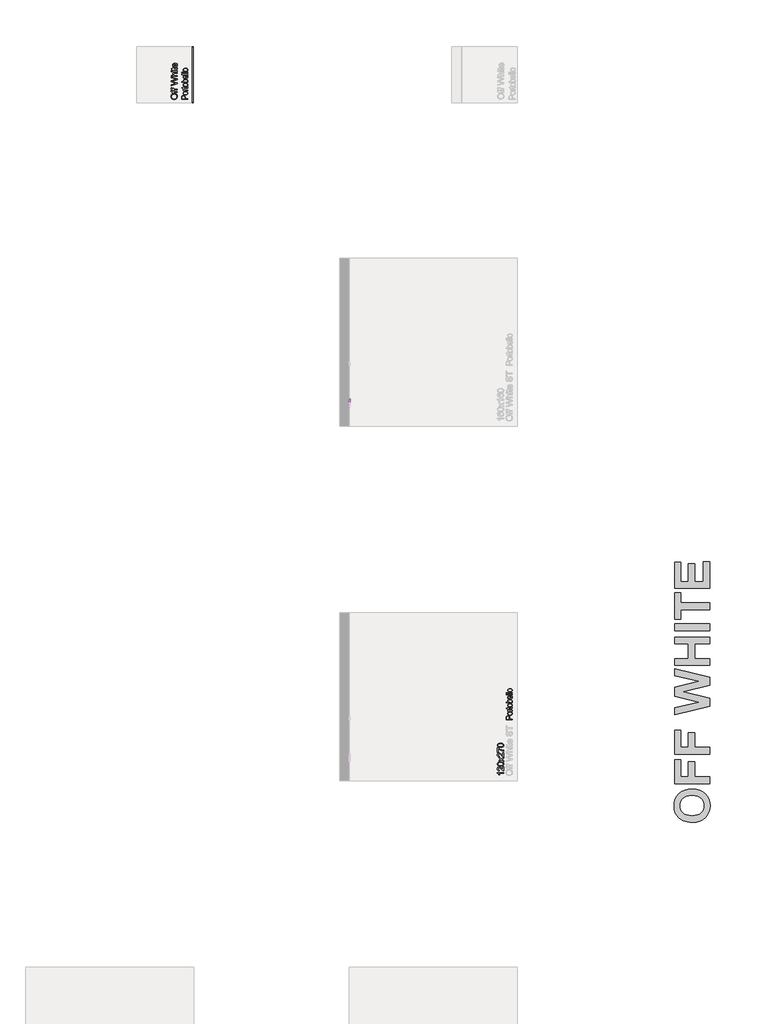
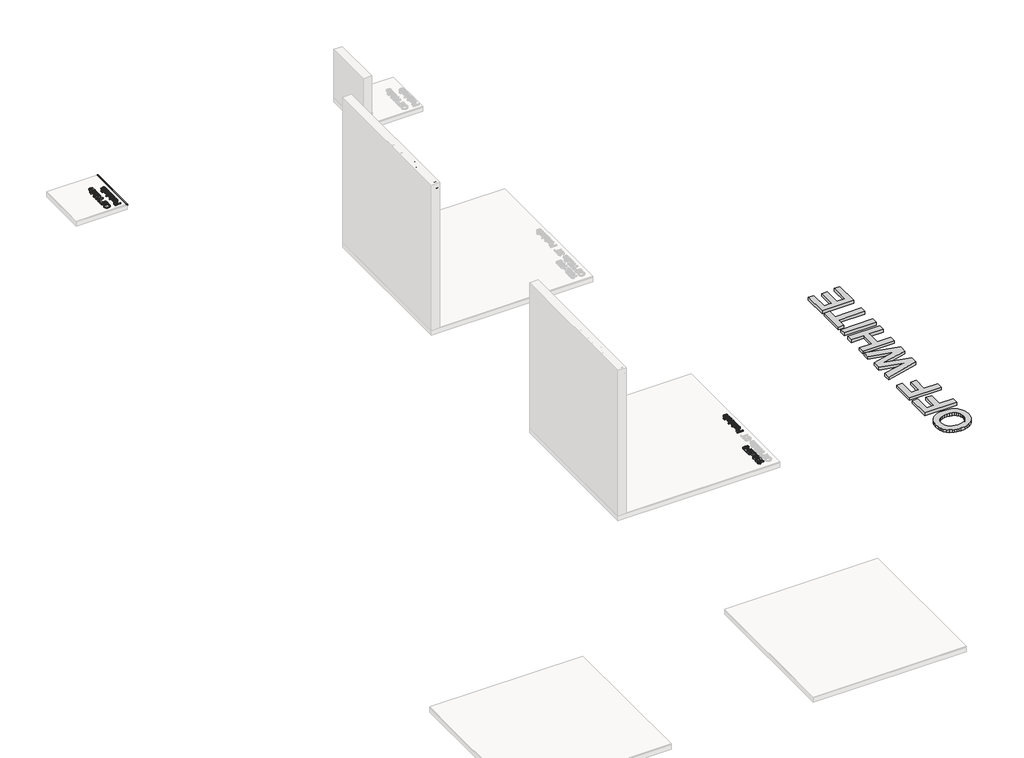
# One storey, part 14 of 19: 8 proxies.
"""IFC4 building model written with IfcOpenShell, lengths in millimetres."""

from ifc_helpers import new_model, si_unit, frame, origin, origin_with_axes, place, context, project, spatial, polyline, outline, extrude, transform, mapped, element, save
from components import off_white_04x90_tel_ext_ret_a41c1965, off_white_04x90_tel_ext_ret_b61131d4

model = new_model("IFC4")

# Units and contexts
model_context = context("Model", 3, world=origin())
ifc_project = project(units=[si_unit("LENGTHUNIT", "METRE", prefix="MILLI")], contexts=[model_context])

# Site, building, storey
site = spatial("IfcSite", under=ifc_project)
building = spatial("IfcBuilding", under=site)
storey = spatial("IfcBuildingStorey", under=building, Name="PORTOBELLO - SHOWROOM", Elevation=0.0)

# Proxies
placement = place(None, origin())
element("IfcBuildingElementProxy", 1, Name="10mm Arial", ObjectType="10mm Arial", at=placement, inside=storey, context=model_context, shape_type="SweptSolid", body=[
    extrude(outline(polyline([(10084.1273431, 2565.0933702), (10087.4750692, 2587.3073114), (10097.5182477, 2604.1133872), (10112.8527955, 2614.6899946), (10132.0746298, 2618.2155303), (10145.2509366, 2616.5600614), (10157.06608, 2611.5936544), (10166.8762665, 2603.6657974), (10174.0377027, 2593.1259783), (10178.4154984, 2580.4831004), (10179.8747637, 2566.2460672), (10178.3388564, 2551.8189616), (10173.7311344, 2538.998274), (10166.3060494, 2528.4400608), (10156.3180533, 2520.800378), (10144.6040774, 2516.1650649), (10132.0010534, 2514.6199605), (10118.6224115, 2516.3275461), (10106.739823, 2521.4503029), (10096.954162, 2529.5253127), (10089.8663022, 2540.0896573), (10084.1273431, 2565.0933702)]), holes=[polyline([(10096.6843818, 2564.9707429), (10099.1951765, 2549.2560503), (10106.7275603, 2537.2814914), (10118.0491287, 2529.7031223), (10131.927477, 2527.1769993), (10146.0081603, 2529.7276478), (10157.3481228, 2537.3795933), (10164.8253244, 2549.7220342), (10167.3177249, 2566.344169), (10163.0502938, 2587.0681881), (10150.5790941, 2600.7901865), (10132.1482062, 2605.6584916), (10118.6408056, 2603.3132439), (10107.156756, 2596.2775007), (10099.3024754, 2583.7603158), (10096.6843818, 2564.9707429)])]), frame((8905.7966975, 0.0, 0.0), z_axis=(1.0, 0.0, 0.0), x_axis=(0.0, 1.0, 0.0)), (0.0, 0.0, 1.0), 20.0),
    extrude(outline(polyline([(10239.5206978, 2516.1895903), (10239.5206978, 2577.4051543), (10228.5332889, 2577.4051543), (10228.5332889, 2589.9621931), (10239.5206978, 2589.9621931), (10239.5206978, 2597.3934094), (10240.845073, 2607.8657835), (10247.2707452, 2615.3460508), (10259.9258858, 2618.2155303), (10271.3792786, 2616.8421042), (10269.5398686, 2605.0698804), (10262.3048561, 2605.6584916), (10254.3953932, 2603.5738269), (10252.0777366, 2595.7992541), (10252.0777366, 2589.9621931), (10266.2044052, 2589.9621931), (10266.2044052, 2577.4051543), (10252.0777366, 2577.4051543), (10252.0777366, 2516.1895903), (10239.5206978, 2516.1895903)])), frame((8905.7966975, 0.0, 0.0), z_axis=(1.0, 0.0, 0.0), x_axis=(0.0, 1.0, 0.0)), (0.0, 0.0, 1.0), 20.0),
    extrude(outline(polyline([(10198.7103218, 2516.1895903), (10198.7103218, 2577.4051543), (10187.7229129, 2577.4051543), (10187.7229129, 2589.9621931), (10198.7103218, 2589.9621931), (10198.7103218, 2597.3934094), (10200.034697, 2607.8657835), (10206.4603692, 2615.3460508), (10219.1155098, 2618.2155303), (10230.5689026, 2616.8421042), (10228.7294926, 2605.0698804), (10221.4944801, 2605.6584916), (10213.5850172, 2603.5738269), (10211.2673606, 2595.7992541), (10211.2673606, 2589.9621931), (10225.3940292, 2589.9621931), (10225.3940292, 2577.4051543), (10211.2673606, 2577.4051543), (10211.2673606, 2516.1895903), (10198.7103218, 2516.1895903)])), frame((8905.7966975, 0.0, 0.0), z_axis=(1.0, 0.0, 0.0), x_axis=(0.0, 1.0, 0.0)), (0.0, 0.0, 1.0), 20.0),
    extrude(outline(polyline([(10335.979357, 2516.1895903), (10308.5844111, 2616.6459005), (10321.5338573, 2616.6459005), (10337.4263595, 2550.6233451), (10342.3314528, 2530.2426826), (10347.5799026, 2548.2689003), (10367.4945812, 2616.6459005), (10386.1584611, 2616.6459005), (10400.6284863, 2567.079933), (10411.395166, 2530.2426826), (10416.1531065, 2550.0347339), (10432.168236, 2616.6459005), (10445.1422077, 2616.6459005), (10417.7717872, 2516.1895903), (10404.3318317, 2516.1895903), (10380.2232983, 2593.690064), (10376.8633094, 2604.5057947), (10373.0863876, 2591.482772), (10351.1360952, 2516.1895903), (10335.979357, 2516.1895903)])), frame((8905.7966975, 0.0, 0.0), z_axis=(1.0, 0.0, 0.0), x_axis=(0.0, 1.0, 0.0)), (0.0, 0.0, 1.0), 20.0),
    extrude(outline(polyline([(10456.1296166, 2516.1895903), (10456.1296166, 2616.6459005), (10468.6866554, 2616.6459005), (10468.6866554, 2579.7105482), (10478.4784478, 2588.5765043), (10490.5388459, 2591.531823), (10504.640989, 2588.3067241), (10513.2003768, 2579.3917171), (10515.7755507, 2562.8860783), (10515.7755507, 2516.1895903), (10503.218512, 2516.1895903), (10503.218512, 2561.5862285), (10499.220861, 2574.8299804), (10487.8900955, 2578.9747842), (10477.6016624, 2576.178881), (10470.7345318, 2568.6005119), (10468.6866554, 2555.3812856), (10468.6866554, 2516.1895903), (10456.1296166, 2516.1895903)])), frame((8905.7966975, 0.0, 0.0), z_axis=(1.0, 0.0, 0.0), x_axis=(0.0, 1.0, 0.0)), (0.0, 0.0, 1.0), 20.0),
    extrude(outline(polyline([(8925.7966975, 10545.5985178), (8925.7966975, 10533.0414791), (8905.7966975, 10533.0414791), (8905.7966975, 10545.5985178), (8925.7966975, 10545.5985178)])), frame((0.0, 0.0, 2604.0888617), z_axis=(0.0, 0.0, 1.0), x_axis=(1.0, 0.0, 0.0)), (0.0, 0.0, 1.0), 12.5570388),
    extrude(outline(polyline([(8925.7966975, 10545.5985178), (8925.7966975, 10533.0414791), (8905.7966975, 10533.0414791), (8905.7966975, 10545.5985178), (8925.7966975, 10545.5985178)])), frame((0.0, 0.0, 2516.1895903), z_axis=(0.0, 0.0, 1.0), x_axis=(1.0, 0.0, 0.0)), (0.0, 0.0, 1.0), 73.7726028),
    extrude(outline(polyline([(10591.1177834, 2526.6619645), (10592.6874132, 2515.8217083), (10583.2941596, 2514.6199605), (10572.7727345, 2516.7046251), (10567.5242847, 2522.1738041), (10566.0037058, 2536.4231001), (10566.0037058, 2577.4051543), (10556.5859267, 2577.4051543), (10556.5859267, 2589.9621931), (10566.0037058, 2589.9621931), (10566.0037058, 2607.890309), (10578.5607446, 2615.2724744), (10578.5607446, 2589.9621931), (10591.1177834, 2589.9621931), (10591.1177834, 2577.4051543), (10578.5607446, 2577.4051543), (10578.5607446, 2536.7909821), (10579.2229322, 2530.316259), (10581.3689105, 2528.0231279), (10585.6486044, 2527.1769993), (10591.1177834, 2526.6619645)])), frame((8905.7966975, 0.0, 0.0), z_axis=(1.0, 0.0, 0.0), x_axis=(0.0, 1.0, 0.0)), (0.0, 0.0, 1.0), 20.0),
    extrude(outline(polyline([(10655.3254543, 2538.1644082), (10667.6372384, 2536.5947783), (10663.2011946, 2527.3180207), (10656.1225319, 2520.3834451), (10646.5606657, 2516.0608316), (10634.6750116, 2514.6199605), (10619.9413377, 2517.1062296), (10608.6044409, 2524.5650371), (10601.3755597, 2536.5120049), (10598.9659326, 2552.4627551), (10601.4000851, 2568.9499998), (10608.7025427, 2581.280178), (10619.8861554, 2588.9689117), (10633.9637731, 2591.531823), (10647.602998, 2588.9750431), (10658.5015021, 2581.3047035), (10665.6476099, 2568.9990508), (10668.0296458, 2552.5363315), (10667.9560694, 2549.1518171), (10611.5229714, 2549.1518171), (10613.6965408, 2539.7524321), (10618.7457212, 2532.842382), (10626.0328504, 2528.5933449), (10634.9202663, 2527.1769993), (10647.2320504, 2529.8012242), (10655.3254543, 2538.1644082)]), holes=[polyline([(10611.5229714, 2561.7088559), (10655.472607, 2561.7088559), (10650.4448864, 2573.0886723), (10643.1240347, 2577.5032562), (10633.9147221, 2578.9747842), (10618.4514156, 2574.2781574), (10613.5861762, 2568.7875186), (10611.5229714, 2561.7088559)])]), frame((8905.7966975, 0.0, 0.0), z_axis=(1.0, 0.0, 0.0), x_axis=(0.0, 1.0, 0.0)), (0.0, 0.0, 1.0), 20.0),
    extrude(outline(polyline([(10716.688171, 2550.721447), (10729.2452098, 2550.721447), (10733.2919118, 2538.1521455), (10743.1756747, 2530.2058944), (10758.234311, 2527.1769993), (10771.3554355, 2529.4701304), (10779.8289842, 2535.7731752), (10782.6126246, 2544.1976729), (10780.5279599, 2552.0335594), (10771.9930977, 2557.7357303), (10753.7093625, 2562.530459), (10734.0276758, 2568.7231393), (10723.3468352, 2578.0673419), (10719.8274307, 2590.5508043), (10724.180701, 2604.763312), (10736.8971553, 2614.7942278), (10755.5119843, 2618.2155303), (10775.377612, 2614.6348123), (10788.6213638, 2604.1133872), (10793.6000335, 2588.3925633), (10781.0429947, 2588.3925633), (10778.7376009, 2595.8850932), (10773.9306095, 2601.2929586), (10756.0024936, 2605.6584916), (10738.0253268, 2601.3420095), (10732.3844695, 2590.9186863), (10736.3821205, 2582.2121457), (10756.8854104, 2575.1978624), (10779.1054829, 2568.8948175), (10791.2578515, 2558.716749), (10795.1696634, 2544.516504), (10790.6692403, 2529.4946558), (10777.719794, 2518.5317724), (10758.7248204, 2514.6199605), (10736.2962814, 2518.8383407), (10722.1082991, 2531.5425323), (10716.688171, 2550.721447)])), frame((8905.7966975, 0.0, 0.0), z_axis=(1.0, 0.0, 0.0), x_axis=(0.0, 1.0, 0.0)), (0.0, 0.0, 1.0), 20.0),
    extrude(outline(polyline([(10839.119299, 2516.1895903), (10839.119299, 2604.0888617), (10806.1570723, 2604.0888617), (10806.1570723, 2616.6459005), (10884.6385646, 2616.6459005), (10884.6385646, 2604.0888617), (10851.6763378, 2604.0888617), (10851.6763378, 2516.1895903), (10839.119299, 2516.1895903)])), frame((8905.7966975, 0.0, 0.0), z_axis=(1.0, 0.0, 0.0), x_axis=(0.0, 1.0, 0.0)), (0.0, 0.0, 1.0), 20.0),
])
element("IfcBuildingElementProxy", 2, Name="10mm Arial", ObjectType="10mm Arial", at=placement, inside=storey, context=model_context, shape_type="SweptSolid", body=[
    extrude(outline(polyline([(11390.2249813, 4434.5732405), (11390.2249813, 4422.0162018), (11311.9396927, 4422.0162018), (11320.4132414, 4410.1213506), (11326.7530744, 4396.9021242), (11314.8827487, 4396.9021242), (11303.1350503, 4415.3084867), (11289.7686712, 4426.4798366), (11289.7686712, 4434.5732405), (11390.2249813, 4434.5732405)])), origin_with_axes(), (0.0, 0.0, 1.0), 20.0),
    extrude(outline(polyline([(11377.6679425, 4528.7510313), (11390.2249813, 4528.7510313), (11390.2249813, 4462.8265778), (11381.5674917, 4464.1754784), (11368.2379007, 4471.8151612), (11353.6820365, 4487.5482478), (11332.7618137, 4509.2164974), (11318.5370432, 4514.6243627), (11307.0223367, 4509.510803), (11302.3257099, 4496.1566865), (11306.9119721, 4482.2384844), (11319.5916382, 4476.9532464), (11318.0220084, 4464.3962076), (11305.8757712, 4467.4404311), (11297.0036837, 4474.0224532), (11291.5774243, 4483.7989172), (11289.7686712, 4496.4264667), (11291.7797594, 4509.1459866), (11297.8130241, 4518.9040566), (11306.826133, 4525.1120652), (11317.7767537, 4527.1814015), (11329.6838676, 4524.949584), (11341.9956517, 4517.5306305), (11359.2002664, 4499.5412009), (11371.2790586, 4485.0957012), (11377.6679425, 4479.4303185), (11377.6679425, 4528.7510313)])), origin_with_axes(), (0.0, 0.0, 1.0), 20.0),
    extrude(outline(polyline([(11340.8061666, 4541.3080701), (11311.9029045, 4544.9991528), (11295.2378502, 4555.9620362), (11289.7686712, 4574.2702968), (11293.0060327, 4588.9365257), (11302.3379727, 4599.0655433), (11317.2004053, 4604.9516552), (11340.8061666, 4607.2325236), (11369.5868014, 4603.5782291), (11386.288644, 4592.6521339), (11390.4181194, 4584.4207742), (11391.7946112, 4574.2702968), (11389.4033782, 4561.2227487), (11382.2296793, 4551.3144603), (11365.2396625, 4543.8096676), (11340.8061666, 4541.3080701)]), holes=[polyline([(11340.7816412, 4553.8651088), (11360.5338386, 4555.3366368), (11371.9657716, 4559.7512208), (11377.4196222, 4566.3240457), (11379.2375724, 4574.2702968), (11377.4134908, 4582.2165479), (11371.9412462, 4588.7893729), (11360.5031818, 4593.2039569), (11340.7816412, 4594.6754848), (11321.4739678, 4593.2530078), (11309.95313, 4588.9855766), (11304.2325649, 4582.4250144), (11302.3257099, 4574.123144), (11304.0057044, 4566.2627321), (11309.0456877, 4559.9474245), (11321.2838954, 4555.3856878), (11340.7816412, 4553.8651088)])]), origin_with_axes(), (0.0, 0.0, 1.0), 20.0),
    extrude(outline(polyline([(11390.2249813, 4613.511043), (11353.1179507, 4640.3419032), (11316.4523785, 4615.0806728), (11316.4523785, 4630.1393092), (11334.1352398, 4642.328466), (11342.4493729, 4648.0428996), (11335.6312932, 4652.9970438), (11316.4523785, 4666.8784578), (11316.4523785, 4681.986145), (11353.1424762, 4655.4495904), (11390.2249813, 4681.0051264), (11390.2249813, 4665.9219646), (11367.9068069, 4650.5199717), (11363.8110541, 4647.7240685), (11390.2249813, 4628.6187303), (11390.2249813, 4613.511043)])), origin_with_axes(), (0.0, 0.0, 1.0), 20.0),
    extrude(outline(polyline([(11377.6679425, 4753.2080993), (11390.2249813, 4753.2080993), (11390.2249813, 4687.2836458), (11381.5674917, 4688.6325464), (11368.2379007, 4696.2722292), (11353.6820365, 4712.0053158), (11332.7618137, 4733.6735654), (11318.5370432, 4739.0814307), (11307.0223367, 4733.9678709), (11302.3257099, 4720.6137545), (11306.9119721, 4706.6955524), (11319.5916382, 4701.4103144), (11318.0220084, 4688.8532756), (11305.8757712, 4691.8974991), (11297.0036837, 4698.4795211), (11291.5774243, 4708.2559852), (11289.7686712, 4720.8835347), (11291.7797594, 4733.6030546), (11297.8130241, 4743.3611246), (11306.826133, 4749.5691332), (11317.7767537, 4751.6384695), (11329.6838676, 4749.406652), (11341.9956517, 4741.9876984), (11359.2002664, 4723.9982689), (11371.2790586, 4709.5527692), (11377.6679425, 4703.8873865), (11377.6679425, 4753.2080993)])), origin_with_axes(), (0.0, 0.0, 1.0), 20.0),
    extrude(outline(polyline([(11303.8953398, 4765.7651381), (11291.338301, 4765.7651381), (11291.338301, 4831.6895916), (11301.4918441, 4831.6895916), (11328.5066453, 4812.9889235), (11362.9281373, 4798.6783139), (11390.2249813, 4794.0184753), (11390.2249813, 4781.4614365), (11361.8980677, 4786.4523689), (11329.8800714, 4800.1498419), (11303.8953398, 4819.1325528), (11303.8953398, 4765.7651381)])), origin_with_axes(), (0.0, 0.0, 1.0), 20.0),
    extrude(outline(polyline([(11340.8061666, 4842.6770005), (11311.9029045, 4846.3680832), (11295.2378502, 4857.3309667), (11289.7686712, 4875.6392273), (11293.0060327, 4890.3054562), (11302.3379727, 4900.4344738), (11317.2004053, 4906.3205857), (11340.8061666, 4908.6014541), (11369.5868014, 4904.9471596), (11386.288644, 4894.0210643), (11390.4181194, 4885.7897047), (11391.7946112, 4875.6392273), (11389.4033782, 4862.5916792), (11382.2296793, 4852.6833908), (11365.2396625, 4845.1785981), (11340.8061666, 4842.6770005)]), holes=[polyline([(11340.7816412, 4855.2340393), (11360.5338386, 4856.7055673), (11371.9657716, 4861.1201512), (11377.4196222, 4867.6929762), (11379.2375724, 4875.6392273), (11377.4134908, 4883.5854784), (11371.9412462, 4890.1583034), (11360.5031818, 4894.5728873), (11340.7816412, 4896.0444153), (11321.4739678, 4894.6219382), (11309.95313, 4890.3545071), (11304.2325649, 4883.7939449), (11302.3257099, 4875.4920745), (11304.0057044, 4867.6316625), (11309.0456877, 4861.3163549), (11321.2838954, 4856.7546182), (11340.7816412, 4855.2340393)])]), origin_with_axes(), (0.0, 0.0, 1.0), 20.0),
])
element("IfcBuildingElementProxy", 3, Name="10mm Arial", ObjectType="10mm Arial", at=placement, inside=storey, context=model_context, shape_type="SweptSolid", body=[
    extrude(outline(polyline([(6096.4161842, 15254.0635668), (6074.2022431, 15257.411293), (6057.3961673, 15267.4544715), (6046.8195599, 15282.7890193), (6043.2940241, 15302.0108535), (6044.9494931, 15315.1871603), (6049.9159, 15327.0023037), (6057.843757, 15336.8124903), (6068.3835762, 15343.9739265), (6081.0264541, 15348.3517222), (6095.2634873, 15349.8109874), (6109.6905929, 15348.2750801), (6122.5112804, 15343.6673581), (6133.0694937, 15336.2422732), (6140.7091765, 15326.254277), (6145.3444896, 15314.5403012), (6146.889594, 15301.9372771), (6145.1820084, 15288.5586353), (6140.0592516, 15276.6760468), (6131.9842418, 15266.8903857), (6121.4198972, 15259.802526), (6096.4161842, 15254.0635668)]), holes=[polyline([(6096.5388116, 15266.6206056), (6112.2535041, 15269.1314002), (6124.2280631, 15276.6637841), (6131.8064322, 15287.9853525), (6134.3325552, 15301.8637007), (6131.7819067, 15315.9443841), (6124.1299612, 15327.2843466), (6111.7875203, 15334.7615482), (6095.1653854, 15337.2539487), (6074.4413664, 15332.9865175), (6060.719368, 15320.5153179), (6055.8510629, 15302.0844299), (6058.1963106, 15288.5770294), (6065.2320538, 15277.0929797), (6077.7492387, 15269.2386991), (6096.5388116, 15266.6206056)])]), frame((0.0, 0.0, 17.0), z_axis=(0.0, 0.0, 1.0), x_axis=(1.0, 0.0, 0.0)), (0.0, 0.0, 1.0), 20.0),
    extrude(outline(polyline([(6145.3199641, 15409.4569216), (6084.1044001, 15409.4569216), (6084.1044001, 15398.4695127), (6071.5473614, 15398.4695127), (6071.5473614, 15409.4569216), (6064.1161451, 15409.4569216), (6053.6437709, 15410.7812968), (6046.1635037, 15417.206969), (6043.2940241, 15429.8621096), (6044.6674502, 15441.3155024), (6056.4396741, 15439.4760924), (6055.8510629, 15432.2410798), (6057.9357275, 15424.3316169), (6065.7103004, 15422.0139604), (6071.5473614, 15422.0139604), (6071.5473614, 15436.140629), (6084.1044001, 15436.140629), (6084.1044001, 15422.0139604), (6145.3199641, 15422.0139604), (6145.3199641, 15409.4569216)])), frame((0.0, 0.0, 17.0), z_axis=(0.0, 0.0, 1.0), x_axis=(1.0, 0.0, 0.0)), (0.0, 0.0, 1.0), 20.0),
    extrude(outline(polyline([(6145.3199641, 15368.6465456), (6084.1044001, 15368.6465456), (6084.1044001, 15357.6591367), (6071.5473614, 15357.6591367), (6071.5473614, 15368.6465456), (6064.1161451, 15368.6465456), (6053.6437709, 15369.9709208), (6046.1635037, 15376.396593), (6043.2940241, 15389.0517336), (6044.6674502, 15400.5051264), (6056.4396741, 15398.6657164), (6055.8510629, 15391.4307038), (6057.9357275, 15383.5212409), (6065.7103004, 15381.2035844), (6071.5473614, 15381.2035844), (6071.5473614, 15395.330253), (6084.1044001, 15395.330253), (6084.1044001, 15381.2035844), (6145.3199641, 15381.2035844), (6145.3199641, 15368.6465456)])), frame((0.0, 0.0, 17.0), z_axis=(0.0, 0.0, 1.0), x_axis=(1.0, 0.0, 0.0)), (0.0, 0.0, 1.0), 20.0),
    extrude(outline(polyline([(6145.3199641, 15505.9155807), (6044.863654, 15478.5206348), (6044.863654, 15491.4700811), (6110.8862094, 15507.3625832), (6131.2668719, 15512.2676765), (6113.2406541, 15517.5161263), (6044.863654, 15537.430805), (6044.863654, 15556.0946849), (6094.4296215, 15570.56471), (6131.2668719, 15581.3313897), (6111.4748206, 15586.0893302), (6044.863654, 15602.1044597), (6044.863654, 15615.0784314), (6145.3199641, 15587.708011), (6145.3199641, 15574.2680554), (6067.8194905, 15550.159522), (6057.0037598, 15546.7995331), (6070.0267824, 15543.0226113), (6145.3199641, 15521.0723189), (6145.3199641, 15505.9155807)])), frame((0.0, 0.0, 17.0), z_axis=(0.0, 0.0, 1.0), x_axis=(1.0, 0.0, 0.0)), (0.0, 0.0, 1.0), 20.0),
    extrude(outline(polyline([(6145.3199641, 15626.0658404), (6044.863654, 15626.0658404), (6044.863654, 15638.6228791), (6081.7990063, 15638.6228791), (6072.9330502, 15648.4146716), (6069.9777315, 15660.4750696), (6073.2028303, 15674.5772128), (6082.1178374, 15683.1366005), (6098.6234762, 15685.7117745), (6145.3199641, 15685.7117745), (6145.3199641, 15673.1547357), (6099.9233259, 15673.1547357), (6086.6795741, 15669.1570847), (6082.5347703, 15657.8263193), (6085.3306734, 15647.5378861), (6092.9090425, 15640.6707556), (6106.1282689, 15638.6228791), (6145.3199641, 15638.6228791), (6145.3199641, 15626.0658404)])), frame((0.0, 0.0, 17.0), z_axis=(0.0, 0.0, 1.0), x_axis=(1.0, 0.0, 0.0)), (0.0, 0.0, 1.0), 20.0),
    extrude(outline(polyline([(6057.4206927, 15702.9777028), (6044.863654, 15702.9777028), (6044.863654, 15715.5347416), (6057.4206927, 15715.5347416), (6057.4206927, 15702.9777028)])), frame((0.0, 0.0, 17.0), z_axis=(0.0, 0.0, 1.0), x_axis=(1.0, 0.0, 0.0)), (0.0, 0.0, 1.0), 20.0),
    extrude(outline(polyline([(6145.3199641, 15702.9777028), (6071.5473614, 15702.9777028), (6071.5473614, 15715.5347416), (6145.3199641, 15715.5347416), (6145.3199641, 15702.9777028)])), frame((0.0, 0.0, 17.0), z_axis=(0.0, 0.0, 1.0), x_axis=(1.0, 0.0, 0.0)), (0.0, 0.0, 1.0), 20.0),
    extrude(outline(polyline([(6134.84759, 15761.0540071), (6145.6878461, 15762.623637), (6146.889594, 15753.2303834), (6144.8049293, 15742.7089583), (6139.3357503, 15737.4605085), (6125.0864544, 15735.9399296), (6084.1044001, 15735.9399296), (6084.1044001, 15726.5221505), (6071.5473614, 15726.5221505), (6071.5473614, 15735.9399296), (6053.6192455, 15735.9399296), (6046.2370801, 15748.4969684), (6071.5473614, 15748.4969684), (6071.5473614, 15761.0540071), (6084.1044001, 15761.0540071), (6084.1044001, 15748.4969684), (6124.7185724, 15748.4969684), (6131.1932955, 15749.1591559), (6133.4864266, 15751.3051343), (6134.3325552, 15755.5848281), (6134.84759, 15761.0540071)])), frame((0.0, 0.0, 17.0), z_axis=(0.0, 0.0, 1.0), x_axis=(1.0, 0.0, 0.0)), (0.0, 0.0, 1.0), 20.0),
    extrude(outline(polyline([(6123.3451463, 15825.261678), (6124.9147761, 15837.5734621), (6134.1915338, 15833.1374184), (6141.1261094, 15826.0587557), (6145.4487228, 15816.4968895), (6146.889594, 15804.6112354), (6144.4033248, 15789.8775614), (6136.9445174, 15778.5406646), (6124.9975496, 15771.3117834), (6109.0467994, 15768.9021564), (6092.5595547, 15771.3363089), (6080.2293764, 15778.6387665), (6072.5406427, 15789.8223791), (6069.9777315, 15803.8999968), (6072.5345114, 15817.5392218), (6080.204851, 15828.4377259), (6092.5105037, 15835.5838337), (6108.973223, 15837.9658696), (6112.3577374, 15837.8922932), (6112.3577374, 15781.4591951), (6121.7571223, 15783.6327646), (6128.6671725, 15788.681945), (6132.9162095, 15795.9690741), (6134.3325552, 15804.85649), (6131.7083303, 15817.1682741), (6123.3451463, 15825.261678)]), holes=[polyline([(6099.8006986, 15781.4591951), (6099.8006986, 15825.4088308), (6088.4208822, 15820.3811102), (6084.0062983, 15813.0602585), (6082.5347703, 15803.8509459), (6087.2313971, 15788.3876394), (6092.7220359, 15783.5224), (6099.8006986, 15781.4591951)])]), frame((0.0, 0.0, 17.0), z_axis=(0.0, 0.0, 1.0), x_axis=(1.0, 0.0, 0.0)), (0.0, 0.0, 1.0), 20.0),
])
element("IfcBuildingElementProxy", 4, Name="10mm Arial Narrow", ObjectType="10mm Arial Narrow", at=placement, inside=storey, context=model_context, shape_type="SweptSolid", body=[
    extrude(outline(polyline([(11530.2249813, 5284.5071343), (11429.5063776, 5284.5071343), (11429.5063776, 5315.804019), (11431.3846983, 5332.0997205), (11440.8651415, 5343.5727066), (11457.8842503, 5347.8623851), (11469.9600758, 5346.0760767), (11479.5864696, 5340.7171515), (11485.887728, 5330.9733626), (11487.9881475, 5316.0324634), (11487.9881475, 5294.254096), (11530.2249813, 5294.254096), (11530.2249813, 5284.5071343)]), holes=[polyline([(11476.6166922, 5294.254096), (11476.6166922, 5317.2254509), (11472.085878, 5333.0896463), (11458.4172873, 5338.1154234), (11448.2515108, 5335.6406089), (11442.451561, 5329.6629801), (11440.8778328, 5316.9970065), (11440.8778328, 5294.254096), (11476.6166922, 5294.254096)])]), origin_with_axes(), (0.0, 0.0, 1.0), 20.0),
    extrude(outline(polyline([(11493.6738751, 5355.9848531), (11477.0830996, 5357.939322), (11465.1310147, 5363.8027286), (11457.9064602, 5372.6612953), (11455.4982753, 5383.6012445), (11457.9064602, 5394.4142801), (11465.1310147, 5403.2982295), (11476.8927292, 5409.2377842), (11492.9123937, 5411.2176358), (11510.0742803, 5409.2726855), (11522.2167355, 5403.4378344), (11529.4412901, 5394.5887862), (11531.8494749, 5383.6012445), (11529.4349444, 5372.7406163), (11522.1913528, 5363.8661854), (11510.2329223, 5357.9551862), (11493.6738751, 5355.9848531)]), holes=[polyline([(11493.6484924, 5365.7318148), (11506.2002438, 5367.0358516), (11515.0715019, 5370.9479622), (11520.3447604, 5376.789159), (11522.1025133, 5383.8804543), (11520.3288962, 5390.6005275), (11515.0080451, 5396.2926008), (11506.1209228, 5400.1761558), (11493.6484924, 5401.4706742), (11481.1348151, 5400.1666373), (11472.2762484, 5396.2545267), (11467.0029898, 5390.41333), (11465.245237, 5383.3220346), (11467.0125083, 5376.5543689), (11472.3143224, 5370.8718141), (11481.1824077, 5367.0168146), (11493.6484924, 5365.7318148)])]), origin_with_axes(), (0.0, 0.0, 1.0), 20.0),
    extrude(outline(polyline([(11522.1025133, 5482.6953546), (11531.8494749, 5484.3198482), (11531.8494749, 5476.9588616), (11529.7300184, 5468.6840972), (11523.9300686, 5464.3690361), (11509.2842434, 5463.2014313), (11466.8697306, 5463.2014313), (11466.8697306, 5455.0789633), (11463.6207433, 5455.0789633), (11468.4942242, 5453.4544697), (11466.8697306, 5445.8904213), (11469.1922488, 5439.8112616), (11475.6775319, 5435.9403979), (11491.0848384, 5433.9605463), (11530.2249813, 5433.9605463), (11530.2249813, 5424.2135847), (11457.1227689, 5424.2135847), (11457.1227689, 5433.9605463), (11466.8189651, 5433.9605463), (11457.731954, 5440.2046937), (11455.4982753, 5446.6011372), (11457.1227689, 5455.0789633), (11457.1227689, 5463.2014313), (11440.8778328, 5463.2014313), (11432.7553648, 5472.948393), (11457.1227689, 5472.948393), (11457.1227689, 5482.6953546), (11466.8697306, 5482.6953546), (11466.8697306, 5472.948393), (11511.5179221, 5472.948393), (11519.5134766, 5473.8114052), (11522.1025133, 5478.4310589), (11522.1025133, 5482.6953546)])), origin_with_axes(), (0.0, 0.0, 1.0), 20.0),
    extrude(outline(polyline([(11493.6738751, 5489.193329), (11477.0830996, 5491.1477979), (11465.1310147, 5497.0112045), (11457.9064602, 5505.8697713), (11455.4982753, 5516.8097204), (11457.9064602, 5527.622756), (11465.1310147, 5536.5067054), (11476.8927292, 5542.4462602), (11492.9123937, 5544.4261118), (11510.0742803, 5542.4811614), (11522.2167355, 5536.6463103), (11529.4412901, 5527.7972621), (11531.8494749, 5516.8097204), (11529.4349444, 5505.9490922), (11522.1913528, 5497.0746613), (11510.2329223, 5491.1636621), (11493.6738751, 5489.193329)]), holes=[polyline([(11493.6484924, 5498.9402907), (11506.2002438, 5500.2443276), (11515.0715019, 5504.1564381), (11520.3447604, 5509.9976349), (11522.1025133, 5517.0889302), (11520.3288962, 5523.8090034), (11515.0080451, 5529.5010767), (11506.1209228, 5533.3846318), (11493.6484924, 5534.6791501), (11481.1348151, 5533.3751132), (11472.2762484, 5529.4630027), (11467.0029898, 5523.6218059), (11465.245237, 5516.5305106), (11467.0125083, 5509.7628448), (11472.3143224, 5504.08029), (11481.1824077, 5500.2252905), (11493.6484924, 5498.9402907)])]), origin_with_axes(), (0.0, 0.0, 1.0), 20.0),
    extrude(outline(polyline([(11530.2249813, 5567.1690223), (11530.2249813, 5557.4220606), (11429.5063776, 5557.4220606), (11429.5063776, 5567.1690223), (11464.9152617, 5567.1690223), (11457.8334849, 5574.568083), (11455.4982753, 5583.7693163), (11459.6991142, 5596.651043), (11472.4285446, 5605.9284245), (11493.1154554, 5609.4058561), (11509.5697989, 5607.4735971), (11521.772538, 5601.6768201), (11529.3302407, 5593.3036978), (11531.8494749, 5583.6424028), (11529.2350555, 5574.3015645), (11521.4679455, 5567.1690223), (11530.2249813, 5567.1690223)]), holes=[polyline([(11493.1154554, 5567.1690223), (11510.3630087, 5569.2504047), (11519.0946618, 5575.139194), (11522.1025133, 5583.5916374), (11520.313032, 5589.534365), (11514.9445883, 5594.7727223), (11493.5215788, 5599.6588945), (11472.085878, 5594.9504013), (11466.9553972, 5589.7056983), (11465.245237, 5583.3885757), (11467.0347182, 5577.4109468), (11472.4031619, 5572.1186512), (11493.1154554, 5567.1690223)])]), origin_with_axes(), (0.0, 0.0, 1.0), 20.0),
    extrude(outline(polyline([(11507.4820708, 5661.3896516), (11509.1065644, 5671.1366132), (11518.993131, 5667.4370829), (11526.1129819, 5661.618096), (11530.4153517, 5653.9144427), (11531.8494749, 5644.5609131), (11529.4349444, 5632.9673591), (11522.1913528, 5623.8232369), (11510.3852185, 5617.8836821), (11494.2830602, 5615.9038305), (11477.6161365, 5617.8932006), (11465.4356073, 5623.861311), (11457.9826083, 5632.8753468), (11455.4982753, 5644.0024934), (11457.8969416, 5654.6854426), (11465.0929407, 5663.43296), (11476.8324453, 5669.267811), (11492.8616283, 5671.2127614), (11496.1106155, 5671.1366132), (11496.1106155, 5625.6507922), (11515.5537734, 5631.6538037), (11520.4653283, 5637.58384), (11522.1025133, 5644.6878267), (11518.4474026, 5654.8662944), (11507.4820708, 5661.3896516)]), holes=[polyline([(11486.3636539, 5626.3107427), (11486.3636539, 5661.3896516), (11472.0985694, 5657.1253559), (11466.9585701, 5651.3000233), (11465.245237, 5644.0786416), (11470.9563473, 5631.8695568), (11486.3636539, 5626.3107427)])]), origin_with_axes(), (0.0, 0.0, 1.0), 20.0),
    extrude(outline(polyline([(11530.2249813, 5684.1325621), (11429.5063776, 5684.1325621), (11429.5063776, 5693.8795238), (11530.2249813, 5693.8795238), (11530.2249813, 5684.1325621)])), origin_with_axes(), (0.0, 0.0, 1.0), 20.0),
    extrude(outline(polyline([(11530.2249813, 5710.1244599), (11429.5063776, 5710.1244599), (11429.5063776, 5719.8714215), (11530.2249813, 5719.8714215), (11530.2249813, 5710.1244599)])), origin_with_axes(), (0.0, 0.0, 1.0), 20.0),
    extrude(outline(polyline([(11493.6738751, 5731.2428768), (11477.0830996, 5733.1973456), (11465.1310147, 5739.0607523), (11457.9064602, 5747.919319), (11455.4982753, 5758.8592681), (11457.9064602, 5769.6723037), (11465.1310147, 5778.5562531), (11476.8927292, 5784.4958079), (11492.9123937, 5786.4756595), (11510.0742803, 5784.5307091), (11522.2167355, 5778.6958581), (11529.4412901, 5769.8468099), (11531.8494749, 5758.8592681), (11529.4349444, 5747.99864), (11522.1913528, 5739.1242091), (11510.2329223, 5733.2132098), (11493.6738751, 5731.2428768)]), holes=[polyline([(11493.6484924, 5740.9898384), (11506.2002438, 5742.2938753), (11515.0715019, 5746.2059859), (11520.3447604, 5752.0471826), (11522.1025133, 5759.138478), (11520.3288962, 5765.8585511), (11515.0080451, 5771.5506244), (11506.1209228, 5775.4341795), (11493.6484924, 5776.7286978), (11481.1348151, 5775.424661), (11472.2762484, 5771.5125504), (11467.0029898, 5765.6713536), (11465.245237, 5758.5800583), (11467.0125083, 5751.8123925), (11472.3143224, 5746.1298377), (11481.1824077, 5742.2748383), (11493.6484924, 5740.9898384)])]), origin_with_axes(), (0.0, 0.0, 1.0), 20.0),
])
element("IfcBuildingElementProxy", 5, Name="10mm Arial Narrow", ObjectType="10mm Arial Narrow", at=placement, inside=storey, context=model_context, shape_type="SweptSolid", body=[
    extrude(outline(polyline([(6315.3199641, 15255.9075155), (6214.6013604, 15255.9075155), (6214.6013604, 15287.2044002), (6216.4796811, 15303.5001017), (6225.9601243, 15314.9730878), (6242.9792331, 15319.2627662), (6255.0550586, 15317.4764578), (6264.6814524, 15312.1175326), (6270.9827108, 15302.3737438), (6273.0831303, 15287.4328446), (6273.0831303, 15265.6544772), (6315.3199641, 15265.6544772), (6315.3199641, 15255.9075155)]), holes=[polyline([(6261.711675, 15265.6544772), (6261.711675, 15288.6258321), (6257.1808608, 15304.4900275), (6243.5122701, 15309.5158046), (6233.3464937, 15307.0409901), (6227.5465438, 15301.0633613), (6225.9728156, 15288.3973877), (6225.9728156, 15265.6544772), (6261.711675, 15265.6544772)])]), frame((0.0, 0.0, 17.0), z_axis=(0.0, 0.0, 1.0), x_axis=(1.0, 0.0, 0.0)), (0.0, 0.0, 1.0), 20.0),
    extrude(outline(polyline([(6278.7688579, 15327.3852343), (6262.1780824, 15329.3397032), (6250.2259976, 15335.2031098), (6243.001443, 15344.0616765), (6240.5932581, 15355.0016256), (6243.001443, 15365.8146612), (6250.2259976, 15374.6986106), (6261.987712, 15380.6381654), (6278.0073765, 15382.618017), (6295.1692631, 15380.6730666), (6307.3117183, 15374.8382156), (6314.5362729, 15365.9891674), (6316.9444577, 15355.0016256), (6314.5299272, 15344.1409975), (6307.2863356, 15335.2665666), (6295.3279051, 15329.3555674), (6278.7688579, 15327.3852343)]), holes=[polyline([(6278.7434752, 15337.1321959), (6291.2952266, 15338.4362328), (6300.1664847, 15342.3483434), (6305.4397432, 15348.1895401), (6307.1974961, 15355.2808355), (6305.423879, 15362.0009087), (6300.1030279, 15367.692982), (6291.2159056, 15371.576537), (6278.7434752, 15372.8710553), (6266.2297979, 15371.5670185), (6257.3712312, 15367.6549079), (6252.0979726, 15361.8137111), (6250.3402198, 15354.7224158), (6252.1074911, 15347.95475), (6257.4093052, 15342.2721953), (6266.2773905, 15338.4171958), (6278.7434752, 15337.1321959)])]), frame((0.0, 0.0, 17.0), z_axis=(0.0, 0.0, 1.0), x_axis=(1.0, 0.0, 0.0)), (0.0, 0.0, 1.0), 20.0),
    extrude(outline(polyline([(6307.1974961, 15454.0957358), (6316.9444577, 15455.7202294), (6316.9444577, 15448.3592427), (6314.8250012, 15440.0844784), (6309.0250514, 15435.7694173), (6294.3792262, 15434.6018125), (6251.9647134, 15434.6018125), (6251.9647134, 15426.4793444), (6248.7157262, 15426.4793444), (6253.589207, 15424.8548508), (6251.9647134, 15417.2908025), (6254.2872316, 15411.2116428), (6260.7725147, 15407.3407791), (6276.1798212, 15405.3609275), (6315.3199641, 15405.3609275), (6315.3199641, 15395.6139659), (6242.2177517, 15395.6139659), (6242.2177517, 15405.3609275), (6251.913948, 15405.3609275), (6242.8269368, 15411.6050748), (6240.5932581, 15418.0015184), (6242.2177517, 15426.4793444), (6242.2177517, 15434.6018125), (6225.9728156, 15434.6018125), (6217.8503476, 15444.3487741), (6242.2177517, 15444.3487741), (6242.2177517, 15454.0957358), (6251.9647134, 15454.0957358), (6251.9647134, 15444.3487741), (6296.6129049, 15444.3487741), (6304.6084594, 15445.2117864), (6307.1974961, 15449.8314401), (6307.1974961, 15454.0957358)])), frame((0.0, 0.0, 17.0), z_axis=(0.0, 0.0, 1.0), x_axis=(1.0, 0.0, 0.0)), (0.0, 0.0, 1.0), 20.0),
    extrude(outline(polyline([(6278.7688579, 15460.5937102), (6262.1780824, 15462.5481791), (6250.2259976, 15468.4115857), (6243.001443, 15477.2701524), (6240.5932581, 15488.2101016), (6243.001443, 15499.0231372), (6250.2259976, 15507.9070866), (6261.987712, 15513.8466413), (6278.0073765, 15515.8264929), (6295.1692631, 15513.8815426), (6307.3117183, 15508.0466915), (6314.5362729, 15499.1976433), (6316.9444577, 15488.2101016), (6314.5299272, 15477.3494734), (6307.2863356, 15468.4750425), (6295.3279051, 15462.5640433), (6278.7688579, 15460.5937102)]), holes=[polyline([(6278.7434752, 15470.3406719), (6291.2952266, 15471.6447087), (6300.1664847, 15475.5568193), (6305.4397432, 15481.3980161), (6307.1974961, 15488.4893114), (6305.423879, 15495.2093846), (6300.1030279, 15500.9014579), (6291.2159056, 15504.7850129), (6278.7434752, 15506.0795313), (6266.2297979, 15504.7754944), (6257.3712312, 15500.8633838), (6252.0979726, 15495.0221871), (6250.3402198, 15487.9308917), (6252.1074911, 15481.163226), (6257.4093052, 15475.4806712), (6266.2773905, 15471.6256717), (6278.7434752, 15470.3406719)])]), frame((0.0, 0.0, 17.0), z_axis=(0.0, 0.0, 1.0), x_axis=(1.0, 0.0, 0.0)), (0.0, 0.0, 1.0), 20.0),
    extrude(outline(polyline([(6315.3199641, 15538.5694034), (6315.3199641, 15528.8224418), (6214.6013604, 15528.8224418), (6214.6013604, 15538.5694034), (6250.0102445, 15538.5694034), (6242.9284677, 15545.9684642), (6240.5932581, 15555.1696975), (6244.7940971, 15568.0514242), (6257.5235274, 15577.3288056), (6278.2104382, 15580.8062373), (6294.6647817, 15578.8739783), (6306.8675208, 15573.0772013), (6314.4252235, 15564.7040789), (6316.9444577, 15555.042784), (6314.3300383, 15545.7019457), (6306.5629283, 15538.5694034), (6315.3199641, 15538.5694034)]), holes=[polyline([(6278.2104382, 15538.5694034), (6295.4579915, 15540.6507859), (6304.1896446, 15546.5395752), (6307.1974961, 15554.9920185), (6305.4080148, 15560.9347461), (6300.0395711, 15566.1731034), (6278.6165616, 15571.0592756), (6257.1808608, 15566.3507824), (6252.05038, 15561.1060794), (6250.3402198, 15554.7889568), (6252.129701, 15548.811328), (6257.4981447, 15543.5190324), (6278.2104382, 15538.5694034)])]), frame((0.0, 0.0, 17.0), z_axis=(0.0, 0.0, 1.0), x_axis=(1.0, 0.0, 0.0)), (0.0, 0.0, 1.0), 20.0),
    extrude(outline(polyline([(6292.5770536, 15632.7900328), (6294.2015472, 15642.5369944), (6304.0881138, 15638.8374641), (6311.2079647, 15633.0184772), (6315.5103345, 15625.3148239), (6316.9444577, 15615.9612943), (6314.5299272, 15604.3677403), (6307.2863356, 15595.2236181), (6295.4802014, 15589.2840633), (6279.378043, 15587.3042117), (6262.7111193, 15589.2935818), (6250.5305901, 15595.2616921), (6243.0775911, 15604.275728), (6240.5932581, 15615.4028746), (6242.9919245, 15626.0858238), (6250.1879235, 15634.8333411), (6261.9274281, 15640.6681922), (6277.9566111, 15642.6131426), (6281.2055983, 15642.5369944), (6281.2055983, 15597.0511734), (6300.6487562, 15603.0541849), (6305.5603111, 15608.9842211), (6307.1974961, 15616.0882078), (6303.5423855, 15626.2666756), (6292.5770536, 15632.7900328)]), holes=[polyline([(6271.4586367, 15597.7111239), (6271.4586367, 15632.7900328), (6257.1935522, 15628.525737), (6252.0535529, 15622.7004045), (6250.3402198, 15615.4790227), (6256.0513301, 15603.269938), (6271.4586367, 15597.7111239)])]), frame((0.0, 0.0, 17.0), z_axis=(0.0, 0.0, 1.0), x_axis=(1.0, 0.0, 0.0)), (0.0, 0.0, 1.0), 20.0),
    extrude(outline(polyline([(6315.3199641, 15655.5329433), (6214.6013604, 15655.5329433), (6214.6013604, 15665.2799049), (6315.3199641, 15665.2799049), (6315.3199641, 15655.5329433)])), frame((0.0, 0.0, 17.0), z_axis=(0.0, 0.0, 1.0), x_axis=(1.0, 0.0, 0.0)), (0.0, 0.0, 1.0), 20.0),
    extrude(outline(polyline([(6315.3199641, 15681.524841), (6214.6013604, 15681.524841), (6214.6013604, 15691.2718027), (6315.3199641, 15691.2718027), (6315.3199641, 15681.524841)])), frame((0.0, 0.0, 17.0), z_axis=(0.0, 0.0, 1.0), x_axis=(1.0, 0.0, 0.0)), (0.0, 0.0, 1.0), 20.0),
    extrude(outline(polyline([(6278.7688579, 15702.6432579), (6262.1780824, 15704.5977268), (6250.2259976, 15710.4611334), (6243.001443, 15719.3197002), (6240.5932581, 15730.2596493), (6243.001443, 15741.0726849), (6250.2259976, 15749.9566343), (6261.987712, 15755.8961891), (6278.0073765, 15757.8760407), (6295.1692631, 15755.9310903), (6307.3117183, 15750.0962392), (6314.5362729, 15741.247191), (6316.9444577, 15730.2596493), (6314.5299272, 15719.3990211), (6307.2863356, 15710.5245902), (6295.3279051, 15704.613591), (6278.7688579, 15702.6432579)]), holes=[polyline([(6278.7434752, 15712.3902196), (6291.2952266, 15713.6942565), (6300.1664847, 15717.6063671), (6305.4397432, 15723.4475638), (6307.1974961, 15730.5388591), (6305.423879, 15737.2589323), (6300.1030279, 15742.9510056), (6291.2159056, 15746.8345607), (6278.7434752, 15748.129079), (6266.2297979, 15746.8250421), (6257.3712312, 15742.9129316), (6252.0979726, 15737.0717348), (6250.3402198, 15729.9804395), (6252.1074911, 15723.2127737), (6257.4093052, 15717.5302189), (6266.2773905, 15713.6752194), (6278.7434752, 15712.3902196)])]), frame((0.0, 0.0, 17.0), z_axis=(0.0, 0.0, 1.0), x_axis=(1.0, 0.0, 0.0)), (0.0, 0.0, 1.0), 20.0),
])
element("IfcBuildingElementProxy", 6, Name="550mm Arial", ObjectType="550mm Arial", at=placement, inside=storey, context=model_context, shape_type="SweptSolid", body=[
    extrude(outline(polyline([(14422.6964203, 3636.3189221), (14381.6231985, 3637.8933086), (14343.9944908, 3642.6164682), (14309.8102972, 3650.4884008), (14279.0706179, 3661.5091065), (14238.5192921, 3683.7244831), (14202.3171004, 3712.794095), (14172.6907993, 3746.8391163), (14151.8671456, 3783.9807209), (14142.1859732, 3810.719197), (14135.2708501, 3839.4408782), (14129.7387516, 3902.8338559), (14134.5358464, 3960.6773386), (14148.927131, 4012.4320336), (14172.9126052, 4058.097941), (14206.4922691, 4097.6750608), (14248.6136322, 4129.6411959), (14298.2242042, 4152.4741496), (14355.3239849, 4166.1739218), (14419.9129745, 4170.7405126), (14484.0627016, 4166.2087149), (14540.8189008, 4152.6133219), (14590.1815721, 4129.9543336), (14632.1507155, 4098.2317499), (14665.6390476, 4058.9155782), (14689.5592848, 4013.4758258), (14703.9114271, 3961.9124927), (14708.6954746, 3904.2255788), (14703.9331728, 3845.9297862), (14689.6462675, 3793.9315396), (14665.8347586, 3748.2308392), (14632.4986462, 3708.8276848), (14590.8121965, 3677.1051011), (14541.9496756, 3654.4461128), (14485.9110835, 3640.8507198), (14422.6964203, 3636.3189221)]), holes=[polyline([(14418.7995962, 3743.2032402), (14463.1868582, 3746.0432247), (14501.8506598, 3754.5631783), (14534.791001, 3768.7631009), (14562.0078818, 3788.6429926), (14583.3186386, 3812.8981132), (14598.5406077, 3840.2237223), (14607.6737892, 3870.6198201), (14610.718183, 3904.0864065), (14607.6955348, 3937.5181998), (14598.6275904, 3967.8099184), (14583.5143496, 3994.9615622), (14562.3558125, 4018.9731312), (14535.1519791, 4038.6094714), (14501.9028494, 4052.6354287), (14462.6084234, 4061.051003), (14417.268701, 4063.8561945), (14372.5596031, 4061.1249383), (14333.9044998, 4052.9311698), (14301.3033911, 4039.2748889), (14274.7562769, 4020.1560957), (14254.1761746, 3996.5142031), (14239.4761016, 3969.288624), (14230.6560578, 3938.4793585), (14227.7160432, 3904.0864065), (14230.6908508, 3869.6586615), (14239.6152739, 3838.7450167), (14254.4893123, 3811.3454723), (14275.3129661, 3787.4600282), (14302.1297265, 3768.0976834), (14334.9830851, 3754.2674372), (14373.8730416, 3745.9692895), (14418.7995962, 3743.2032402)])]), origin_with_axes(), (0.0, 0.0, 1.0), 50.0),
    extrude(outline(polyline([(14699.7884481, 4259.8107777), (14138.6457781, 4259.8107777), (14138.6457781, 4642.8129175), (14236.6230697, 4642.8129175), (14236.6230697, 4366.6950957), (14361.3214408, 4366.6950957), (14361.3214408, 4607.1848114), (14459.2987324, 4607.1848114), (14459.2987324, 4366.6950957), (14699.7884481, 4366.6950957), (14699.7884481, 4259.8107777)])), origin_with_axes(), (0.0, 0.0, 1.0), 50.0),
    extrude(outline(polyline([(14699.7884481, 4731.8831826), (14138.6457781, 4731.8831826), (14138.6457781, 5114.8853224), (14236.6230697, 5114.8853224), (14236.6230697, 4838.7675006), (14361.3214408, 4838.7675006), (14361.3214408, 5079.2572163), (14459.2987324, 5079.2572163), (14459.2987324, 4838.7675006), (14699.7884481, 4838.7675006), (14699.7884481, 4731.8831826)])), origin_with_axes(), (0.0, 0.0, 1.0), 50.0),
    extrude(outline(polyline([(14699.7884481, 5505.5419381), (14138.6457781, 5364.2820646), (14138.6457781, 5473.9498285), (14524.1530191, 5564.690161), (14138.6457781, 5662.2499357), (14138.6457781, 5805.8757382), (14530.5549444, 5903.1571683), (14138.6457781, 5993.7583286), (14138.6457781, 6103.5652647), (14699.7884481, 5964.9496647), (14699.7884481, 5838.1637093), (14280.3231685, 5733.9236647), (14699.7884481, 5627.8743803), (14699.7884481, 5505.5419381)])), origin_with_axes(), (0.0, 0.0, 1.0), 50.0),
    extrude(outline(polyline([(14699.7884481, 6157.0074238), (14138.6457781, 6157.0074238), (14138.6457781, 6263.8917419), (14361.3214408, 6263.8917419), (14361.3214408, 6504.3814576), (14138.6457781, 6504.3814576), (14138.6457781, 6611.2657756), (14699.7884481, 6611.2657756), (14699.7884481, 6504.3814576), (14459.2987324, 6504.3814576), (14459.2987324, 6263.8917419), (14699.7884481, 6263.8917419), (14699.7884481, 6157.0074238)])), origin_with_axes(), (0.0, 0.0, 1.0), 50.0),
    extrude(outline(polyline([(14699.7884481, 6718.1500937), (14138.6457781, 6718.1500937), (14138.6457781, 6825.0344118), (14699.7884481, 6825.0344118), (14699.7884481, 6718.1500937)])), origin_with_axes(), (0.0, 0.0, 1.0), 50.0),
    extrude(outline(polyline([(14699.7884481, 7056.617101), (14236.6230697, 7056.617101), (14236.6230697, 6896.2906239), (14138.6457781, 6896.2906239), (14138.6457781, 7323.8278963), (14236.6230697, 7323.8278963), (14236.6230697, 7163.5014191), (14699.7884481, 7163.5014191), (14699.7884481, 7056.617101)])), origin_with_axes(), (0.0, 0.0, 1.0), 50.0),
    extrude(outline(polyline([(14699.7884481, 7395.0841083), (14138.6457781, 7395.0841083), (14138.6457781, 7813.7143542), (14236.6230697, 7813.7143542), (14236.6230697, 7501.9684264), (14361.3214408, 7501.9684264), (14361.3214408, 7795.9003012), (14459.2987324, 7795.9003012), (14459.2987324, 7501.9684264), (14601.8111565, 7501.9684264), (14601.8111565, 7822.6213807), (14699.7884481, 7822.6213807), (14699.7884481, 7395.0841083)])), origin_with_axes(), (0.0, 0.0, 1.0), 50.0),
])
off_white_04x90_tel_ext_ret_shape = off_white_04x90_tel_ext_ret_a41c1965(model_context)
element("IfcBuildingElementProxy", 7, Name="PORTOBELLO - BORDA MINI KALKS OFF WHITE 04X90 TEL EXT RET : OFF WHITE 04X90 TEL EXT RET", ObjectType="PORTOBELLO - BORDA MINI KALKS OFF WHITE 04X90 TEL EXT RET : OFF WHITE 04X90 TEL EXT RET", at=placement, inside=storey, context=model_context, shape_type="MappedRepresentation", body=[
    mapped(off_white_04x90_tel_ext_ret_shape, transform((6394.7966975, 15205.6967801, 17.0), x_axis=(0.0, 1.0, 0.0), y_axis=(-1.0, 0.0, 0.0), z_axis=(0.0, 0.0, 1.0))),
])
off_white_04x90_tel_ext_ret_2_shape = off_white_04x90_tel_ext_ret_b61131d4(model_context)
element("IfcBuildingElementProxy", 8, Name="BORDA MINI KALKS OFF WHITE 04X90 TEL EXT RET : OFF WHITE 04X90 TEL EXT RET", ObjectType="BORDA MINI KALKS OFF WHITE 04X90 TEL EXT RET : OFF WHITE 04X90 TEL EXT RET", at=placement, inside=storey, context=model_context, shape_type="MappedRepresentation", body=[
    mapped(off_white_04x90_tel_ext_ret_2_shape, transform((6252.7966975, 15657.6967801, 17.0), x_axis=(-1.0, 0.0, 0.0), y_axis=(0.0, -1.0, 0.0), z_axis=(0.0, 0.0, 1.0))),
])

save(model, "model.ifc")
